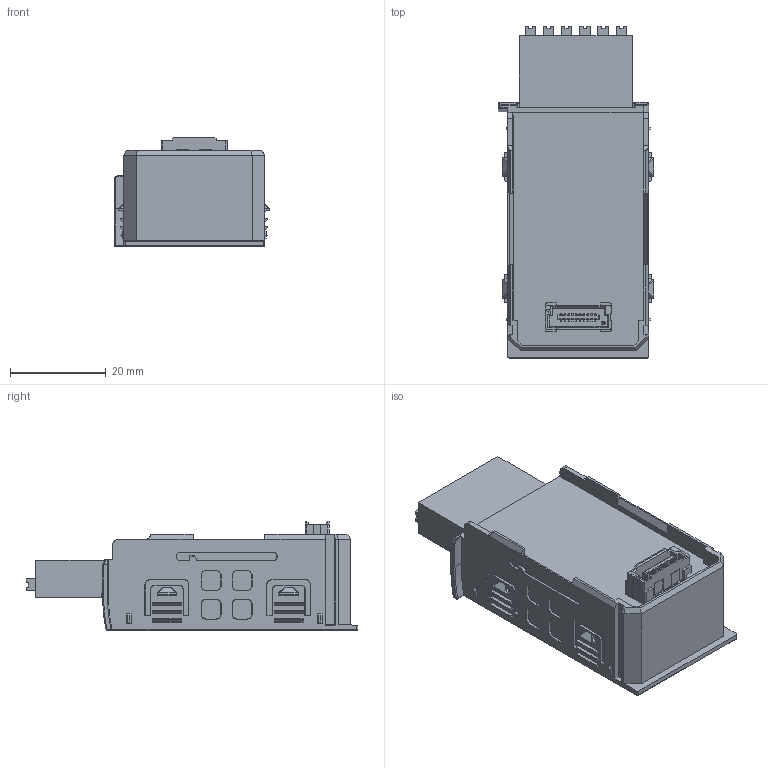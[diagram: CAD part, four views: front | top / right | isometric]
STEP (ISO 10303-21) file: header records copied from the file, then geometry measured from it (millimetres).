
FILE_DESCRIPTION((''),'2;1');
FILE_NAME('GE20-4DO_TN_WX','2022-05-24T',('10002586'),(''),'CREO PARAMETRIC BY PTC INC, 2015290','CREO PARAMETRIC BY PTC INC, 2015290','');
FILE_SCHEMA(('CONFIG_CONTROL_DESIGN'));
Products named in the file (1): GE20-4DO_TN_WX
Bounding box: 32.6 x 69.5 x 22.9 mm (x, y, z)
Volume: 28248 mm3; surface area: 8834.6 mm2
Topology: 1 solids, 1 shells, 1703 faces, 4864 edges, 3127 vertices
Faces by surface type: plane 1442, cylinder 144, cone 80, extrusion 16, torus 10, bspline 8, sphere 3
Entity records: 68670 total; most frequent: CARTESIAN_POINT 11382, ORIENTED_EDGE 9728, DIRECTION 8604, EDGE_CURVE 4864, VECTOR 4364, LINE 4348, VERTEX_POINT 3127, AXIS2_PLACEMENT_3D 2120
